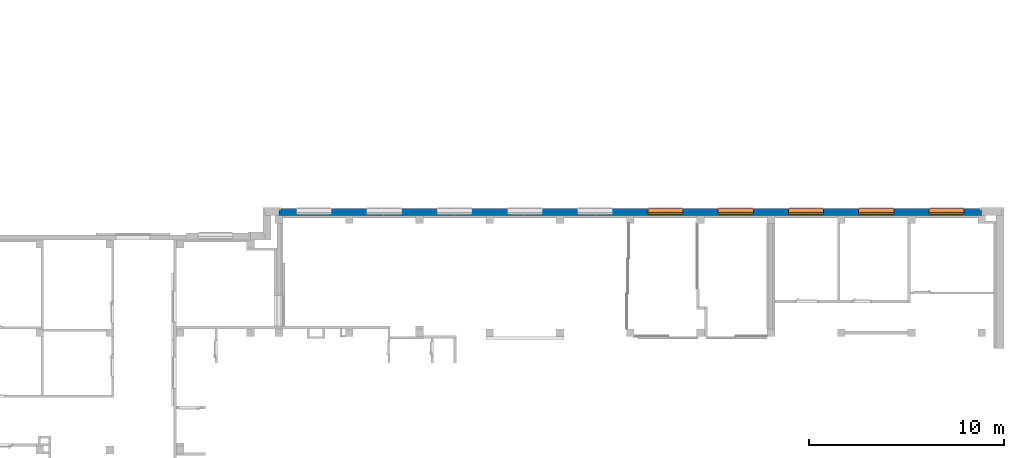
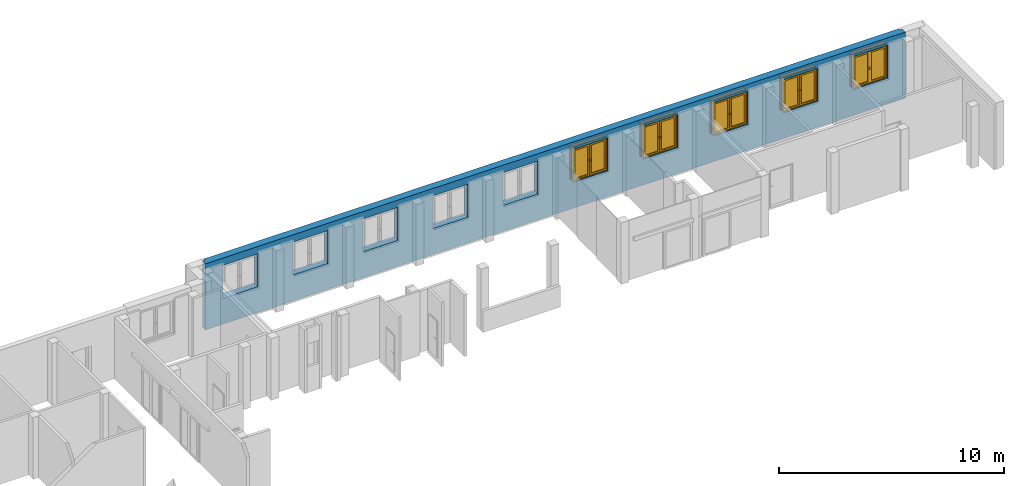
# One storey, part 23 of 37: 5 proxies, 5 windows, 1 wall, 10 openings.
"""IFC4 building model written with IfcOpenShell, lengths in metres."""

from ifc_helpers import new_model, entity, si_unit, converted_unit, derived_unit, frame, origin, origin_with_axes, place, context, subcontext, project, spatial, polyline, outline, extrude, clip, bounded_halfspace, closed_shell, open_shell, faceted_brep, surface_model, source, transform, mapped, material, layer, layer_set, layer_usage, element, fill, save


model = new_model("IFC4")

# Units and contexts
model_context = context("Model", 3, precision=1e-05, world=origin())
body_context = subcontext(model_context, "Body", "Model", "MODEL_VIEW")
ifc_project = project(units=[si_unit("LENGTHUNIT", "METRE"), si_unit("AREAUNIT", "SQUARE_METRE"), si_unit("VOLUMEUNIT", "CUBIC_METRE"), si_unit("MASSUNIT", "GRAM", prefix="KILO"), converted_unit("PLANEANGLEUNIT", "DEGREE", entity("IfcPlaneAngleMeasure", 0.0174532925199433), si_unit("PLANEANGLEUNIT", "RADIAN"), dimensions=[0, 0, 0, 0, 0, 0, 0]), derived_unit("THERMALTRANSMITTANCEUNIT", [(si_unit("POWERUNIT", "WATT"), 1), (si_unit("THERMODYNAMICTEMPERATUREUNIT", "KELVIN"), -1), (si_unit("LENGTHUNIT", "METRE"), -2)]), derived_unit("VOLUMETRICFLOWRATEUNIT", [(si_unit("LENGTHUNIT", "METRE"), 3), (converted_unit("TIMEUNIT", "hour", entity("IfcTimeMeasure", 3600.0), si_unit("TIMEUNIT", "SECOND"), dimensions=[0, 0, 1, 0, 0, 0, 0]), -1), (si_unit("LENGTHUNIT", "METRE"), -1)])], contexts=[model_context])

# Site, building, storey
site_placement = place(None, origin())
site = spatial("IfcSite", under=ifc_project, at=site_placement, Name="3. ASŘ", CompositionType="ELEMENT")
building_placement = place(site_placement, origin())
building = spatial("IfcBuilding", under=site, at=building_placement, Name="Pavilon B", CompositionType="ELEMENT")
storey_placement = place(building_placement, origin())
storey = spatial("IfcBuildingStorey", under=building, at=storey_placement, Name="Půdorys 1.NP", CompositionType="ELEMENT", Elevation=0.0)

# Wall, openings, windows, proxies
ifc_material_1 = material(Name="ZELEZOBETONOVÁ KCE")
ifc_layer_1 = layer(ifc_material_1, 0.250000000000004)
ifc_material_2 = material(Name="MINERÁLNÍ VATA")
ifc_layer_2 = layer(ifc_material_2, 0.119999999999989)
ifc_layer_set = layer_set([ifc_layer_1, ifc_layer_2])
ifc_layer_usage = layer_usage(ifc_layer_set, "AXIS2", "POSITIVE", 0.0)
wall_placement = place(storey_placement, frame((49.1, -15.6, -0.1), z_axis=(0.0, 0.0, 1.0), x_axis=(1.0, 1.01054966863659e-16, 0.0)))
wall = element("IfcWall", 1, at=wall_placement, inside=storey, material=ifc_layer_usage, Name="ZELEZOBETONOVÁ KCE", context=body_context, shape_type="Clipping", body=[
    clip(extrude(outline(polyline([(0.0, 0.0), (36.0, 0.0), (36.0, 0.25), (35.88, 0.25), (35.88, 0.37), (0.12, 0.37), (0.12, 0.25), (2.52637417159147e-17, 0.25), (0.0, 0.0)])), origin_with_axes(), (0.0, 0.0, 1.0), 3.6), bounded_halfspace(frame((18.0, 0.31, 0.1), z_axis=(0.0, 0.0, 1.0), x_axis=(-1.01054966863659e-16, -1.0, 0.0)), True, origin_with_axes(), polyline([(0.12, 0.37), (0.12, 0.25), (35.88, 0.25), (35.88, 0.37), (0.12, 0.37)]))),
])
opening_1_placement = place(wall_placement, frame((27.9, 0.369999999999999, 1.4), z_axis=(0.0, -1.0, 0.0), x_axis=(0.0, 0.0, 1.0)))
opening_1 = element("IfcOpeningElement", 2, at=opening_1_placement, cuts=wall, Name="Okenní otvor", ObjectType="Opening", context=body_context, shape_type="SweptSolid", body=[
    extrude(outline(polyline([(0.0, 1.8), (1.8, 1.8), (1.8, 0.0), (0.0, 0.0), (0.0, 1.8)])), origin_with_axes(), (0.0, 0.0, 1.0), 0.12),
    extrude(outline(polyline([(0.0, 1.8), (1.8, 1.8), (1.8, 0.0), (0.0, 0.0), (0.0, 1.8)])), frame((0.0, 0.0, 0.12), z_axis=(0.0, 0.0, 1.0), x_axis=(1.0, 0.0, 0.0)), (0.0, 0.0, 1.0), 0.25),
])
opening_2_placement = place(wall_placement, frame((31.5, 0.369999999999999, 1.4), z_axis=(0.0, -1.0, 0.0), x_axis=(0.0, 0.0, 1.0)))
opening_2 = element("IfcOpeningElement", 3, at=opening_2_placement, cuts=wall, Name="Okenní otvor", ObjectType="Opening", context=body_context, shape_type="SweptSolid", body=[
    extrude(outline(polyline([(0.0, 1.8), (1.8, 1.8), (1.8, 0.0), (0.0, 0.0), (0.0, 1.8)])), origin_with_axes(), (0.0, 0.0, 1.0), 0.12),
    extrude(outline(polyline([(0.0, 1.8), (1.8, 1.8), (1.8, 0.0), (0.0, 0.0), (0.0, 1.8)])), frame((0.0, 0.0, 0.12), z_axis=(0.0, 0.0, 1.0), x_axis=(1.0, 0.0, 0.0)), (0.0, 0.0, 1.0), 0.25),
])
opening_3_placement = place(wall_placement, frame((35.1, 0.37, 1.4), z_axis=(0.0, -1.0, 0.0), x_axis=(0.0, 0.0, 1.0)))
opening_3 = element("IfcOpeningElement", 4, at=opening_3_placement, cuts=wall, Name="Okenní otvor", ObjectType="Opening", context=body_context, shape_type="SweptSolid", body=[
    extrude(outline(polyline([(0.0, 1.8), (1.8, 1.8), (1.8, 0.0), (0.0, 0.0), (0.0, 1.8)])), origin_with_axes(), (0.0, 0.0, 1.0), 0.12),
    extrude(outline(polyline([(0.0, 1.8), (1.8, 1.8), (1.8, 0.0), (0.0, 0.0), (0.0, 1.8)])), frame((0.0, 0.0, 0.12), z_axis=(0.0, 0.0, 1.0), x_axis=(1.0, 0.0, 0.0)), (0.0, 0.0, 1.0), 0.25),
])
opening_4_placement = place(wall_placement, frame((24.3, 0.369999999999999, 1.4), z_axis=(0.0, -1.0, 0.0), x_axis=(0.0, 0.0, 1.0)))
opening_4 = element("IfcOpeningElement", 5, at=opening_4_placement, cuts=wall, Name="Okenní otvor", ObjectType="Opening", context=body_context, shape_type="SweptSolid", body=[
    extrude(outline(polyline([(0.0, 1.8), (1.8, 1.8), (1.8, 0.0), (0.0, 0.0), (0.0, 1.8)])), origin_with_axes(), (0.0, 0.0, 1.0), 0.12),
    extrude(outline(polyline([(0.0, 1.8), (1.8, 1.8), (1.8, 0.0), (0.0, 0.0), (0.0, 1.8)])), frame((0.0, 0.0, 0.12), z_axis=(0.0, 0.0, 1.0), x_axis=(1.0, 0.0, 0.0)), (0.0, 0.0, 1.0), 0.25),
])
opening_5_placement = place(wall_placement, frame((20.7, 0.37, 1.4), z_axis=(0.0, -1.0, 0.0), x_axis=(0.0, 0.0, 1.0)))
opening_5 = element("IfcOpeningElement", 6, at=opening_5_placement, cuts=wall, Name="Okenní otvor", ObjectType="Opening", context=body_context, shape_type="SweptSolid", body=[
    extrude(outline(polyline([(0.0, 1.8), (1.8, 1.8), (1.8, 0.0), (0.0, 0.0), (0.0, 1.8)])), origin_with_axes(), (0.0, 0.0, 1.0), 0.12),
    extrude(outline(polyline([(0.0, 1.8), (1.8, 1.8), (1.8, 0.0), (0.0, 0.0), (0.0, 1.8)])), frame((0.0, 0.0, 0.12), z_axis=(0.0, 0.0, 1.0), x_axis=(1.0, 0.0, 0.0)), (0.0, 0.0, 1.0), 0.25),
])
opening_6_placement = place(wall_placement, frame((17.1, 0.37, 1.4), z_axis=(0.0, -1.0, 0.0), x_axis=(0.0, 0.0, 1.0)))
element("IfcOpeningElement", 7, at=opening_6_placement, cuts=wall, Name="Okenní otvor", ObjectType="Opening", context=body_context, shape_type="SweptSolid", body=[
    extrude(outline(polyline([(0.0, 1.8), (1.8, 1.8), (1.8, 0.0), (0.0, 0.0), (0.0, 1.8)])), origin_with_axes(), (0.0, 0.0, 1.0), 0.12),
    extrude(outline(polyline([(0.0, 1.8), (1.8, 1.8), (1.8, 0.0), (0.0, 0.0), (0.0, 1.8)])), frame((0.0, 0.0, 0.12), z_axis=(0.0, 0.0, 1.0), x_axis=(1.0, 0.0, 0.0)), (0.0, 0.0, 1.0), 0.25),
])
opening_7_placement = place(wall_placement, frame((13.5, 0.369999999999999, 1.4), z_axis=(0.0, -1.0, 0.0), x_axis=(0.0, 0.0, 1.0)))
element("IfcOpeningElement", 8, at=opening_7_placement, cuts=wall, Name="Okenní otvor", ObjectType="Opening", context=body_context, shape_type="SweptSolid", body=[
    extrude(outline(polyline([(0.0, 1.8), (1.8, 1.8), (1.8, 0.0), (0.0, 0.0), (0.0, 1.8)])), origin_with_axes(), (0.0, 0.0, 1.0), 0.12),
    extrude(outline(polyline([(0.0, 1.8), (1.8, 1.8), (1.8, 0.0), (0.0, 0.0), (0.0, 1.8)])), frame((0.0, 0.0, 0.12), z_axis=(0.0, 0.0, 1.0), x_axis=(1.0, 0.0, 0.0)), (0.0, 0.0, 1.0), 0.25),
])
opening_8_placement = place(wall_placement, frame((9.9, 0.369999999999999, 1.4), z_axis=(0.0, -1.0, 0.0), x_axis=(0.0, 0.0, 1.0)))
element("IfcOpeningElement", 9, at=opening_8_placement, cuts=wall, Name="Okenní otvor", ObjectType="Opening", context=body_context, shape_type="SweptSolid", body=[
    extrude(outline(polyline([(0.0, 1.8), (1.8, 1.8), (1.8, 0.0), (0.0, 0.0), (0.0, 1.8)])), origin_with_axes(), (0.0, 0.0, 1.0), 0.12),
    extrude(outline(polyline([(0.0, 1.8), (1.8, 1.8), (1.8, 0.0), (0.0, 0.0), (0.0, 1.8)])), frame((0.0, 0.0, 0.12), z_axis=(0.0, 0.0, 1.0), x_axis=(1.0, 0.0, 0.0)), (0.0, 0.0, 1.0), 0.25),
])
opening_9_placement = place(wall_placement, frame((6.3, 0.369999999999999, 1.4), z_axis=(0.0, -1.0, 0.0), x_axis=(0.0, 0.0, 1.0)))
element("IfcOpeningElement", 10, at=opening_9_placement, cuts=wall, Name="Okenní otvor", ObjectType="Opening", context=body_context, shape_type="SweptSolid", body=[
    extrude(outline(polyline([(0.0, 1.8), (1.8, 1.8), (1.8, 0.0), (0.0, 0.0), (0.0, 1.8)])), origin_with_axes(), (0.0, 0.0, 1.0), 0.12),
    extrude(outline(polyline([(0.0, 1.8), (1.8, 1.8), (1.8, 0.0), (0.0, 0.0), (0.0, 1.8)])), frame((0.0, 0.0, 0.12), z_axis=(0.0, 0.0, 1.0), x_axis=(1.0, 0.0, 0.0)), (0.0, 0.0, 1.0), 0.25),
])
opening_10_placement = place(wall_placement, frame((2.7, 0.37, 1.4), z_axis=(0.0, -1.0, 0.0), x_axis=(0.0, 0.0, 1.0)))
element("IfcOpeningElement", 11, at=opening_10_placement, cuts=wall, Name="Okenní otvor", ObjectType="Opening", context=body_context, shape_type="SweptSolid", body=[
    extrude(outline(polyline([(0.0, 1.8), (1.8, 1.8), (1.8, 0.0), (0.0, 0.0), (0.0, 1.8)])), origin_with_axes(), (0.0, 0.0, 1.0), 0.12),
    extrude(outline(polyline([(0.0, 1.8), (1.8, 1.8), (1.8, 0.0), (0.0, 0.0), (0.0, 1.8)])), frame((0.0, 0.0, 0.12), z_axis=(0.0, 0.0, 1.0), x_axis=(1.0, 0.0, 0.0)), (0.0, 0.0, 1.0), 0.25),
])
shared_shape = source(origin_with_axes(), body_context, "Body", "SurfaceModel", [
    surface_model("IfcShellBasedSurfaceModel", [(0.0, 0.182, 1.8), (0.0, 0.182, -5.63337527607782e-18), (0.08, 0.182, -5.63337527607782e-18), (0.08, 0.182, 1.8), (0.0, 0.0899999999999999, 5.63337527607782e-18), (0.0, 0.0900000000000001, 1.8), (0.08, 0.0900000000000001, 1.8), (0.08, 0.0899999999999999, 5.63337527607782e-18)], [closed_shell([[[0, 1, 2, 3]], [[4, 5, 6, 7]], [[1, 0, 5, 4]], [[2, 1, 4, 7]], [[3, 2, 7, 6]], [[0, 3, 6, 5]]], orient=[[False], [False], [False], [False], [False], [False]])]),
    surface_model("IfcShellBasedSurfaceModel", [(1.72, 0.182, 1.8), (1.72, 0.182, -5.63337527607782e-18), (1.8, 0.182, -5.63337527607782e-18), (1.8, 0.182, 1.8), (1.72, 0.0899999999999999, 5.63337527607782e-18), (1.72, 0.0900000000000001, 1.8), (1.8, 0.0900000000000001, 1.8), (1.8, 0.0899999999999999, 5.63337527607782e-18)], [closed_shell([[[0, 1, 2, 3]], [[4, 5, 6, 7]], [[1, 0, 5, 4]], [[2, 1, 4, 7]], [[3, 2, 7, 6]], [[0, 3, 6, 5]]], orient=[[False], [False], [False], [False], [False], [False]])]),
    surface_model("IfcShellBasedSurfaceModel", [(0.08, 0.182, 0.08), (0.08, 0.182, -5.63337527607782e-18), (1.72, 0.182, -5.63337527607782e-18), (1.72, 0.182, 0.08), (0.08, 0.0899999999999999, 5.63337527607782e-18), (0.08, 0.0899999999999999, 0.08), (1.72, 0.0899999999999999, 0.08), (1.72, 0.0899999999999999, 5.63337527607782e-18)], [closed_shell([[[0, 1, 2, 3]], [[4, 5, 6, 7]], [[1, 0, 5, 4]], [[2, 1, 4, 7]], [[3, 2, 7, 6]], [[0, 3, 6, 5]]], orient=[[False], [False], [False], [False], [False], [False]])]),
    surface_model("IfcShellBasedSurfaceModel", [(0.08, 0.182, 1.8), (0.08, 0.182, 1.72), (1.72, 0.182, 1.72), (1.72, 0.182, 1.8), (0.08, 0.0900000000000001, 1.72), (0.08, 0.0900000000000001, 1.8), (1.72, 0.0900000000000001, 1.8), (1.72, 0.0900000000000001, 1.72)], [closed_shell([[[0, 1, 2, 3]], [[4, 5, 6, 7]], [[1, 0, 5, 4]], [[2, 1, 4, 7]], [[3, 2, 7, 6]], [[0, 3, 6, 5]]], orient=[[False], [False], [False], [False], [False], [False]])]),
    surface_model("IfcShellBasedSurfaceModel", [(0.86, 0.182, 1.72), (0.86, 0.182, 0.08), (0.94, 0.182, 0.08), (0.94, 0.182, 1.72), (0.86, 0.0899999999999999, 0.08), (0.86, 0.0900000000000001, 1.72), (0.94, 0.0900000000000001, 1.72), (0.94, 0.0899999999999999, 0.08)], [closed_shell([[[0, 1, 2, 3]], [[4, 5, 6, 7]], [[1, 0, 5, 4]], [[2, 1, 4, 7]], [[3, 2, 7, 6]], [[0, 3, 6, 5]]], orient=[[False], [False], [False], [False], [False], [False]])]),
    surface_model("IfcShellBasedSurfaceModel", [(0.05, 0.145, 1.75), (0.05, 0.145, 0.05), (0.13, 0.145, 0.05), (0.13, 0.145, 1.75), (0.05, 0.0599999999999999, 0.05), (0.05, 0.0600000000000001, 1.75), (0.13, 0.0600000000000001, 1.75), (0.13, 0.0599999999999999, 0.05)], [closed_shell([[[0, 1, 2, 3]], [[4, 5, 6, 7]], [[1, 0, 5, 4]], [[2, 1, 4, 7]], [[3, 2, 7, 6]], [[0, 3, 6, 5]]], orient=[[False], [False], [False], [False], [False], [False]])]),
    surface_model("IfcShellBasedSurfaceModel", [(0.81, 0.145, 1.75), (0.81, 0.145, 0.05), (0.89, 0.145, 0.05), (0.89, 0.145, 1.75), (0.81, 0.0599999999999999, 0.05), (0.81, 0.0600000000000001, 1.75), (0.89, 0.0600000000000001, 1.75), (0.89, 0.0599999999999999, 0.05)], [closed_shell([[[0, 1, 2, 3]], [[4, 5, 6, 7]], [[1, 0, 5, 4]], [[2, 1, 4, 7]], [[3, 2, 7, 6]], [[0, 3, 6, 5]]], orient=[[False], [False], [False], [False], [False], [False]])]),
    surface_model("IfcShellBasedSurfaceModel", [(0.13, 0.145, 0.13), (0.13, 0.145, 0.05), (0.81, 0.145, 0.05), (0.81, 0.145, 0.13), (0.13, 0.0599999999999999, 0.05), (0.13, 0.0599999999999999, 0.13), (0.81, 0.0599999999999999, 0.13), (0.81, 0.0599999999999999, 0.05)], [closed_shell([[[0, 1, 2, 3]], [[4, 5, 6, 7]], [[1, 0, 5, 4]], [[2, 1, 4, 7]], [[3, 2, 7, 6]], [[0, 3, 6, 5]]], orient=[[False], [False], [False], [False], [False], [False]])]),
    surface_model("IfcShellBasedSurfaceModel", [(0.13, 0.145, 1.75), (0.13, 0.145, 1.67), (0.81, 0.145, 1.67), (0.81, 0.145, 1.75), (0.13, 0.0600000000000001, 1.67), (0.13, 0.0600000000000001, 1.75), (0.81, 0.0600000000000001, 1.75), (0.81, 0.0600000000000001, 1.67)], [closed_shell([[[0, 1, 2, 3]], [[4, 5, 6, 7]], [[1, 0, 5, 4]], [[2, 1, 4, 7]], [[3, 2, 7, 6]], [[0, 3, 6, 5]]], orient=[[False], [False], [False], [False], [False], [False]])]),
    surface_model("IfcShellBasedSurfaceModel", [(0.8375, 0.06, 0.92), (0.8375, 0.06, 0.88), (0.8625, 0.06, 0.88), (0.8625, 0.06, 0.92), (0.8375, 0.05, 0.88), (0.8375, 0.05, 0.92), (0.8625, 0.05, 0.92), (0.8625, 0.05, 0.88)], [closed_shell([[[0, 1, 2, 3]], [[4, 5, 6, 7]], [[1, 0, 5, 4]], [[2, 1, 4, 7]], [[3, 2, 7, 6]], [[0, 3, 6, 5]]], orient=[[False], [False], [False], [False], [False], [False]])]),
    surface_model("IfcShellBasedSurfaceModel", [(0.86, 0.05, 0.9), (0.858660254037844, 0.05, 0.905), (0.855, 0.05, 0.908660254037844), (0.85, 0.05, 0.91), (0.845, 0.05, 0.908660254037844), (0.841339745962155, 0.05, 0.905), (0.84, 0.05, 0.9), (0.841339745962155, 0.05, 0.895), (0.845, 0.05, 0.891339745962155), (0.85, 0.05, 0.89), (0.855, 0.05, 0.891339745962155), (0.858660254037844, 0.05, 0.895), (0.86, 0.01, 0.9), (0.858660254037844, 0.00500000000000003, 0.905), (0.855, 0.00133974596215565, 0.908660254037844), (0.85, 2.8421709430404e-17, 0.91), (0.845, 0.00133974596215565, 0.908660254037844), (0.841339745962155, 0.00500000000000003, 0.905), (0.84, 0.01, 0.9), (0.841339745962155, 0.015, 0.895), (0.845, 0.0186602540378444, 0.891339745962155), (0.85, 0.02, 0.89), (0.855, 0.0186602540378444, 0.891339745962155), (0.858660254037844, 0.015, 0.895), (0.86, 0.01, 0.785), (0.858660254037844, 0.005, 0.785), (0.855, 0.00133974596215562, 0.785), (0.85, 0.0, 0.785), (0.845, 0.00133974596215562, 0.785), (0.841339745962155, 0.005, 0.785), (0.84, 0.01, 0.785), (0.841339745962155, 0.015, 0.785), (0.845, 0.0186602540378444, 0.785), (0.85, 0.02, 0.785), (0.855, 0.0186602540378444, 0.785), (0.858660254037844, 0.015, 0.785)], [open_shell([[[0, 1, 2, 3, 4, 5, 6, 7, 8, 9, 10, 11]], [[0, 12, 13, 1]], [[1, 13, 14, 2]], [[2, 14, 15, 3]], [[3, 15, 16, 4]], [[4, 16, 17, 5]], [[5, 17, 18, 6]], [[6, 18, 19, 7]], [[7, 19, 20, 8]], [[8, 20, 21, 9]], [[9, 21, 22, 10]], [[10, 22, 23, 11]], [[11, 23, 12, 0]], [[12, 24, 25, 13]], [[13, 25, 26, 14]], [[14, 26, 27, 15]], [[15, 27, 28, 16]], [[16, 28, 29, 17]], [[17, 29, 30, 18]], [[18, 30, 31, 19]], [[19, 31, 32, 20]], [[20, 32, 33, 21]], [[21, 33, 34, 22]], [[22, 34, 35, 23]], [[23, 35, 24, 12]]], orient=[[False], [False], [False], [False], [False], [False], [False], [False], [False], [False], [False], [False], [False], [False], [False], [False], [False], [False], [False], [False], [False], [False], [False], [False], [False]])]),
    surface_model("IfcShellBasedSurfaceModel", [(0.91, 0.145, 1.75), (0.91, 0.145, 0.05), (0.99, 0.145, 0.05), (0.99, 0.145, 1.75), (0.91, 0.0599999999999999, 0.05), (0.91, 0.0600000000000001, 1.75), (0.99, 0.0600000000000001, 1.75), (0.99, 0.0599999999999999, 0.05)], [closed_shell([[[0, 1, 2, 3]], [[4, 5, 6, 7]], [[1, 0, 5, 4]], [[2, 1, 4, 7]], [[3, 2, 7, 6]], [[0, 3, 6, 5]]], orient=[[False], [False], [False], [False], [False], [False]])]),
    surface_model("IfcShellBasedSurfaceModel", [(1.67, 0.145, 1.75), (1.67, 0.145, 0.05), (1.75, 0.145, 0.05), (1.75, 0.145, 1.75), (1.67, 0.0599999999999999, 0.05), (1.67, 0.0600000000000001, 1.75), (1.75, 0.0600000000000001, 1.75), (1.75, 0.0599999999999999, 0.05)], [closed_shell([[[0, 1, 2, 3]], [[4, 5, 6, 7]], [[1, 0, 5, 4]], [[2, 1, 4, 7]], [[3, 2, 7, 6]], [[0, 3, 6, 5]]], orient=[[False], [False], [False], [False], [False], [False]])]),
    surface_model("IfcShellBasedSurfaceModel", [(0.99, 0.145, 0.13), (0.99, 0.145, 0.05), (1.67, 0.145, 0.05), (1.67, 0.145, 0.13), (0.99, 0.0599999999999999, 0.05), (0.99, 0.0599999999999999, 0.13), (1.67, 0.0599999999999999, 0.13), (1.67, 0.0599999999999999, 0.05)], [closed_shell([[[0, 1, 2, 3]], [[4, 5, 6, 7]], [[1, 0, 5, 4]], [[2, 1, 4, 7]], [[3, 2, 7, 6]], [[0, 3, 6, 5]]], orient=[[False], [False], [False], [False], [False], [False]])]),
    surface_model("IfcShellBasedSurfaceModel", [(0.99, 0.145, 1.75), (0.99, 0.145, 1.67), (1.67, 0.145, 1.67), (1.67, 0.145, 1.75), (0.99, 0.0600000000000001, 1.67), (0.99, 0.0600000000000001, 1.75), (1.67, 0.0600000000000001, 1.75), (1.67, 0.0600000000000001, 1.67)], [closed_shell([[[0, 1, 2, 3]], [[4, 5, 6, 7]], [[1, 0, 5, 4]], [[2, 1, 4, 7]], [[3, 2, 7, 6]], [[0, 3, 6, 5]]], orient=[[False], [False], [False], [False], [False], [False]])]),
    surface_model("IfcShellBasedSurfaceModel", [(0.9375, 0.06, 0.92), (0.9375, 0.06, 0.88), (0.9625, 0.06, 0.88), (0.9625, 0.06, 0.92), (0.9375, 0.05, 0.88), (0.9375, 0.05, 0.92), (0.9625, 0.05, 0.92), (0.9625, 0.05, 0.88)], [closed_shell([[[0, 1, 2, 3]], [[4, 5, 6, 7]], [[1, 0, 5, 4]], [[2, 1, 4, 7]], [[3, 2, 7, 6]], [[0, 3, 6, 5]]], orient=[[False], [False], [False], [False], [False], [False]])]),
    surface_model("IfcShellBasedSurfaceModel", [(0.96, 0.05, 0.9), (0.958660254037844, 0.05, 0.905), (0.955, 0.05, 0.908660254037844), (0.95, 0.05, 0.91), (0.945, 0.05, 0.908660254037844), (0.941339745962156, 0.05, 0.905), (0.94, 0.05, 0.9), (0.941339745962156, 0.05, 0.895), (0.945, 0.05, 0.891339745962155), (0.95, 0.05, 0.89), (0.955, 0.05, 0.891339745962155), (0.958660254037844, 0.05, 0.895), (0.96, 0.01, 0.9), (0.958660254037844, 0.00500000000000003, 0.905), (0.955, 0.00133974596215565, 0.908660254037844), (0.95, 2.8421709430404e-17, 0.91), (0.945, 0.00133974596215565, 0.908660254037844), (0.941339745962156, 0.00500000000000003, 0.905), (0.94, 0.01, 0.9), (0.941339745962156, 0.015, 0.895), (0.945, 0.0186602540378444, 0.891339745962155), (0.95, 0.02, 0.89), (0.955, 0.0186602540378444, 0.891339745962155), (0.958660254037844, 0.015, 0.895), (0.96, 0.01, 0.785), (0.958660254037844, 0.005, 0.785), (0.955, 0.00133974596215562, 0.785), (0.95, 0.0, 0.785), (0.945, 0.00133974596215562, 0.785), (0.941339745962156, 0.005, 0.785), (0.94, 0.01, 0.785), (0.941339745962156, 0.015, 0.785), (0.945, 0.0186602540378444, 0.785), (0.95, 0.02, 0.785), (0.955, 0.0186602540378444, 0.785), (0.958660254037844, 0.015, 0.785)], [open_shell([[[0, 1, 2, 3, 4, 5, 6, 7, 8, 9, 10, 11]], [[0, 12, 13, 1]], [[1, 13, 14, 2]], [[2, 14, 15, 3]], [[3, 15, 16, 4]], [[4, 16, 17, 5]], [[5, 17, 18, 6]], [[6, 18, 19, 7]], [[7, 19, 20, 8]], [[8, 20, 21, 9]], [[9, 21, 22, 10]], [[10, 22, 23, 11]], [[11, 23, 12, 0]], [[12, 24, 25, 13]], [[13, 25, 26, 14]], [[14, 26, 27, 15]], [[15, 27, 28, 16]], [[16, 28, 29, 17]], [[17, 29, 30, 18]], [[18, 30, 31, 19]], [[19, 31, 32, 20]], [[20, 32, 33, 21]], [[21, 33, 34, 22]], [[22, 34, 35, 23]], [[23, 35, 24, 12]]], orient=[[False], [False], [False], [False], [False], [False], [False], [False], [False], [False], [False], [False], [False], [False], [False], [False], [False], [False], [False], [False], [False], [False], [False], [False], [False]])]),
    surface_model("IfcShellBasedSurfaceModel", [(0.13, 0.1025, 0.13), (0.81, 0.1025, 0.13), (0.81, 0.1025, 1.67), (0.13, 0.1025, 1.67)], [open_shell([[[0, 1, 2, 3]]], orient=[[False]])]),
    surface_model("IfcShellBasedSurfaceModel", [(0.99, 0.1025, 0.13), (1.67, 0.1025, 0.13), (1.67, 0.1025, 1.67), (0.99, 0.1025, 1.67)], [open_shell([[[0, 1, 2, 3]]], orient=[[False]])]),
])
window_1_placement = place(opening_1_placement, frame((0.0, 0.0, 0.382), z_axis=(1.0, 0.0, 0.0), x_axis=(0.0, 1.0, -3.45984326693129e-16)))
window_1 = element("IfcWindow", 12, at=window_1_placement, inside=storey, Name="O06", OverallHeight=1.8, OverallWidth=1.8, PartitioningType="USERDEFINED", PredefinedType="WINDOW", context=body_context, shape_type="MappedRepresentation", body=[
    mapped(shared_shape, transform((0.0, 0.0, 0.0), x_axis=(1.0, 0.0, 0.0), y_axis=(0.0, -1.0, 0.0), z_axis=(0.0, 0.0, 1.0), scale=1.0)),
])
fill(opening_1, window_1)
window_2_placement = place(opening_2_placement, frame((0.0, 0.0, 0.382), z_axis=(1.0, 0.0, 0.0), x_axis=(0.0, 1.0, -3.45984326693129e-16)))
window_2 = element("IfcWindow", 13, at=window_2_placement, inside=storey, Name="O06", OverallHeight=1.8, OverallWidth=1.8, PartitioningType="USERDEFINED", PredefinedType="WINDOW", context=body_context, shape_type="MappedRepresentation", body=[
    mapped(shared_shape, transform((0.0, 0.0, 0.0), x_axis=(1.0, 0.0, 0.0), y_axis=(0.0, -1.0, 0.0), z_axis=(0.0, 0.0, 1.0), scale=1.0)),
])
fill(opening_2, window_2)
window_3_placement = place(opening_3_placement, frame((0.0, 0.0, 0.382), z_axis=(1.0, 0.0, 0.0), x_axis=(0.0, 1.0, -3.45984326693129e-16)))
window_3 = element("IfcWindow", 14, at=window_3_placement, inside=storey, Name="O06", OverallHeight=1.8, OverallWidth=1.8, PartitioningType="USERDEFINED", PredefinedType="WINDOW", context=body_context, shape_type="MappedRepresentation", body=[
    mapped(shared_shape, transform((0.0, 0.0, 0.0), x_axis=(1.0, 0.0, 0.0), y_axis=(0.0, -1.0, 0.0), z_axis=(0.0, 0.0, 1.0), scale=1.0)),
])
fill(opening_3, window_3)
window_4_placement = place(opening_4_placement, frame((0.0, 0.0, 0.382), z_axis=(1.0, 0.0, 0.0), x_axis=(0.0, 1.0, -3.45984326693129e-16)))
window_4 = element("IfcWindow", 15, at=window_4_placement, inside=storey, Name="O06", OverallHeight=1.8, OverallWidth=1.8, PartitioningType="USERDEFINED", PredefinedType="WINDOW", context=body_context, shape_type="MappedRepresentation", body=[
    mapped(shared_shape, transform((0.0, 0.0, 0.0), x_axis=(1.0, 0.0, 0.0), y_axis=(0.0, -1.0, 0.0), z_axis=(0.0, 0.0, 1.0), scale=1.0)),
])
fill(opening_4, window_4)
window_5_placement = place(opening_5_placement, frame((0.0, 0.0, 0.382), z_axis=(1.0, 0.0, 0.0), x_axis=(0.0, 1.0, -3.45984326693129e-16)))
window_5 = element("IfcWindow", 16, at=window_5_placement, inside=storey, Name="O06", OverallHeight=1.8, OverallWidth=1.8, PartitioningType="USERDEFINED", PredefinedType="WINDOW", context=body_context, shape_type="MappedRepresentation", body=[
    mapped(shared_shape, transform((0.0, 0.0, 0.0), x_axis=(1.0, 0.0, 0.0), y_axis=(0.0, -1.0, 0.0), z_axis=(0.0, 0.0, 1.0), scale=1.0)),
])
fill(opening_5, window_5)
ifc_material_3 = material(Name="MINERÁLNÍ VATA")
proxy_1_placement = place(opening_1_placement, frame((0.0, 1.8, 0.2)))
proxy_1 = element("IfcBuildingElementProxy", 17, at=proxy_1_placement, inside=storey, material=ifc_material_3, context=body_context, shape_type="Brep", body=[
    faceted_brep([(0.0, -1.8, -0.2), (0.0, -1.8, 1.81898940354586e-16), (1.8, -1.8, 1.81898940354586e-16), (1.8, -1.8, -0.2), (1.8, 0.0, 0.0), (1.8, -2.02109933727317e-17, -0.2), (0.0, -1.76, -0.2), (0.0, -1.76, 1.77856741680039e-16), (0.0, -2.02109933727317e-17, -0.2), (0.0, -0.0400000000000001, -0.2), (1.76, -0.0400000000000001, -0.2), (1.76, -1.76, -0.2), (1.76, -1.76, 1.77856741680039e-16), (1.76, -0.0400000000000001, 4.04219867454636e-18), (0.0, -0.0400000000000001, 4.04219867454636e-18), (0.0, 0.0, 0.0)], [[[0, 1, 2, 3]], [[3, 2, 4, 5]], [[0, 6, 7, 1]], [[6, 0, 3, 5, 8, 9, 10, 11]], [[1, 7, 12, 13, 14, 15, 4, 2]], [[7, 6, 11, 12]], [[15, 8, 5, 4]], [[9, 8, 15, 14]], [[9, 14, 13, 10]], [[12, 11, 10, 13]]], orient=[[False], [False], [False], [False], [False], [False], [False], [False], [False], [False]]),
])
fill(opening_1, proxy_1)
ifc_material_4 = material(Name="MINERÁLNÍ VATA")
proxy_2_placement = place(opening_2_placement, frame((0.0, 1.8, 0.2)))
proxy_2 = element("IfcBuildingElementProxy", 18, at=proxy_2_placement, inside=storey, material=ifc_material_4, context=body_context, shape_type="Brep", body=[
    faceted_brep([(0.0, -1.8, -0.2), (0.0, -1.8, 1.81898940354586e-16), (1.8, -1.8, 1.81898940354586e-16), (1.8, -1.8, -0.2), (0.0, -1.76, 1.77856741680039e-16), (0.0, -1.76, -0.2), (1.76, -1.76, -0.2), (1.76, -1.76, 1.77856741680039e-16), (1.8, 0.0, 0.0), (1.8, -2.02109933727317e-17, -0.2), (0.0, -2.02109933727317e-17, -0.2), (0.0, -0.0400000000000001, -0.2), (1.76, -0.0400000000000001, -0.2), (1.76, -0.0400000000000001, 4.04219867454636e-18), (0.0, -0.0400000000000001, 4.04219867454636e-18), (0.0, 0.0, 0.0)], [[[0, 1, 2, 3]], [[4, 5, 6, 7]], [[0, 5, 4, 1]], [[3, 2, 8, 9]], [[6, 5, 0, 3, 9, 10, 11, 12]], [[13, 14, 15, 8, 2, 1, 4, 7]], [[7, 6, 12, 13]], [[11, 14, 13, 12]], [[15, 10, 9, 8]], [[11, 10, 15, 14]]], orient=[[False], [False], [False], [False], [False], [False], [False], [False], [False], [False]]),
])
fill(opening_2, proxy_2)
ifc_material_5 = material(Name="MINERÁLNÍ VATA")
proxy_3_placement = place(opening_3_placement, frame((0.0, 1.8, 0.2)))
proxy_3 = element("IfcBuildingElementProxy", 19, at=proxy_3_placement, inside=storey, material=ifc_material_5, context=body_context, shape_type="Brep", body=[
    faceted_brep([(0.0, -1.8, -0.2), (0.0, -1.8, 1.81898940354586e-16), (1.8, -1.8, 1.81898940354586e-16), (1.8, -1.8, -0.2), (1.8, 0.0, 0.0), (1.8, -2.02109933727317e-17, -0.2), (0.0, -1.76, -0.2), (0.0, -1.76, 1.77856741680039e-16), (0.0, -2.02109933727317e-17, -0.2), (0.0, -0.0400000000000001, -0.2), (1.76, -0.0400000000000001, -0.2), (1.76, -1.76, -0.2), (1.76, -1.76, 1.77856741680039e-16), (1.76, -0.0400000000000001, 4.04219867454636e-18), (0.0, -0.0400000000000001, 4.04219867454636e-18), (0.0, 0.0, 0.0)], [[[0, 1, 2, 3]], [[3, 2, 4, 5]], [[0, 6, 7, 1]], [[6, 0, 3, 5, 8, 9, 10, 11]], [[1, 7, 12, 13, 14, 15, 4, 2]], [[7, 6, 11, 12]], [[15, 8, 5, 4]], [[9, 8, 15, 14]], [[9, 14, 13, 10]], [[12, 11, 10, 13]]], orient=[[False], [False], [False], [False], [False], [False], [False], [False], [False], [False]]),
])
fill(opening_3, proxy_3)
ifc_material_6 = material(Name="MINERÁLNÍ VATA")
proxy_4_placement = place(opening_4_placement, frame((0.0, 1.8, 0.2)))
proxy_4 = element("IfcBuildingElementProxy", 20, at=proxy_4_placement, inside=storey, material=ifc_material_6, context=body_context, shape_type="Brep", body=[
    faceted_brep([(0.0, -1.8, -0.2), (0.0, -1.8, 1.81898940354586e-16), (1.8, -1.8, 1.81898940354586e-16), (1.8, -1.8, -0.2), (0.0, -1.76, 1.77856741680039e-16), (0.0, -1.76, -0.2), (1.76, -1.76, -0.2), (1.76, -1.76, 1.77856741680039e-16), (1.8, 0.0, 0.0), (1.8, -2.02109933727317e-17, -0.2), (0.0, -2.02109933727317e-17, -0.2), (0.0, -0.0400000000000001, -0.2), (1.76, -0.0400000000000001, -0.2), (1.76, -0.0400000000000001, 4.04219867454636e-18), (0.0, -0.0400000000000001, 4.04219867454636e-18), (0.0, 0.0, 0.0)], [[[0, 1, 2, 3]], [[4, 5, 6, 7]], [[0, 5, 4, 1]], [[3, 2, 8, 9]], [[6, 5, 0, 3, 9, 10, 11, 12]], [[13, 14, 15, 8, 2, 1, 4, 7]], [[7, 6, 12, 13]], [[11, 14, 13, 12]], [[15, 10, 9, 8]], [[11, 10, 15, 14]]], orient=[[False], [False], [False], [False], [False], [False], [False], [False], [False], [False]]),
])
fill(opening_4, proxy_4)
ifc_material_7 = material(Name="MINERÁLNÍ VATA")
proxy_5_placement = place(opening_5_placement, frame((0.0, 1.8, 0.2)))
proxy_5 = element("IfcBuildingElementProxy", 21, at=proxy_5_placement, inside=storey, material=ifc_material_7, context=body_context, shape_type="Brep", body=[
    faceted_brep([(0.0, -1.8, -0.2), (0.0, -1.8, 1.81898940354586e-16), (1.8, -1.8, 1.81898940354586e-16), (1.8, -1.8, -0.2), (1.8, 0.0, 0.0), (1.8, -2.02109933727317e-17, -0.2), (0.0, -1.76, -0.2), (0.0, -1.76, 1.77856741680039e-16), (0.0, -2.02109933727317e-17, -0.2), (0.0, -0.0400000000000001, -0.2), (1.76, -0.0400000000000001, -0.2), (1.76, -1.76, -0.2), (1.76, -1.76, 1.77856741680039e-16), (1.76, -0.0400000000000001, 4.04219867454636e-18), (0.0, -0.0400000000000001, 4.04219867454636e-18), (0.0, 0.0, 0.0)], [[[0, 1, 2, 3]], [[3, 2, 4, 5]], [[0, 6, 7, 1]], [[6, 0, 3, 5, 8, 9, 10, 11]], [[1, 7, 12, 13, 14, 15, 4, 2]], [[7, 6, 11, 12]], [[15, 8, 5, 4]], [[9, 8, 15, 14]], [[9, 14, 13, 10]], [[12, 11, 10, 13]]], orient=[[False], [False], [False], [False], [False], [False], [False], [False], [False], [False]]),
])
fill(opening_5, proxy_5)

save(model, "model.ifc")
